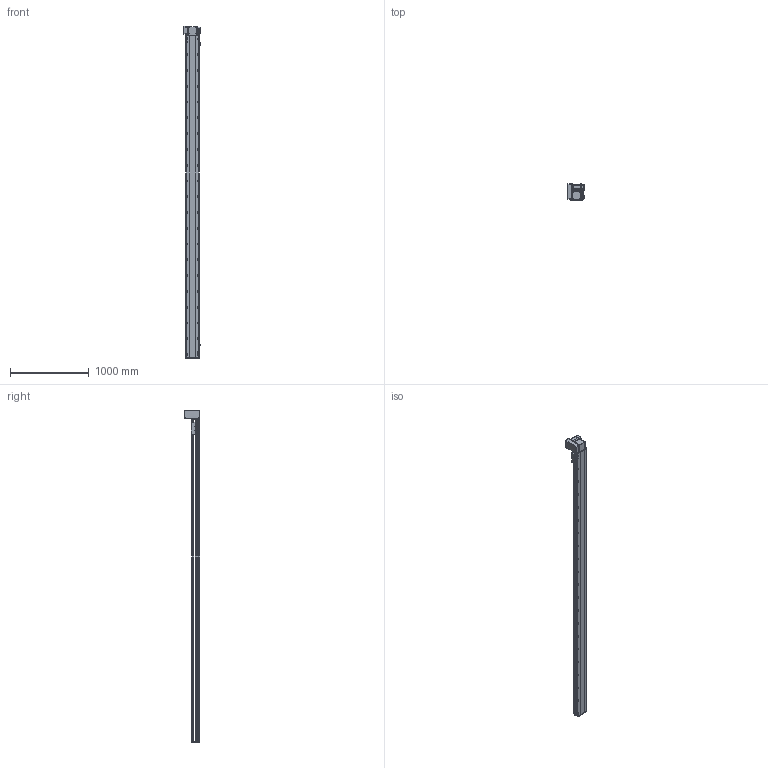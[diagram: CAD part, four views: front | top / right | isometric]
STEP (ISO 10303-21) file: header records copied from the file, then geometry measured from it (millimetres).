
FILE_DESCRIPTION (( 'STEP AP214' ), '1' );
FILE_NAME ('RTB17S-XX-3800-LW-M75-C4.STEP', '2025-12-12T01:24:42', ( '' ), ( '' ), 'SwSTEP 2.0', 'SolidWorks 2018', '' );
FILE_SCHEMA (( 'AUTOMOTIVE_DESIGN' ));
Length unit declared in the file: millimetre
Products named in the file (15): RTB17S-L-014-T20-P75--々湍釱^RTB17S-LW-々湍釱蚾饜-750W_RTB17S-XX-XX-LW-M75-C4; RTB22S-GY-008-M75--萇儂啣^RTB17S-LW-々湍釱蚾饜-750W_RTB17S-XX-XX-LW-M75-C4; RTB17S-LW-々湍釱蚾饜-750W^RTB17S-XX-XX-LW-M75-C4; 750W萇儂^RTB17S-XX-XX-LW-M75-C4; RTB22S-GY-018P^RTB17S-LW-々湍釱蚾饜-750W_RTB17S-XX-XX-LW-M75-C4; RTB17S-L-004-賑釱^RTB17S-賑釱_RTB17S-XX-XX-LW-M75-C4; RTH13-BL-012覜茼え俋离^RTB17S-賑釱_RTB17S-XX-XX-LW-M75-C4; RTB22S-GY-017P^RTB17S-LW-々湍釱蚾饜-750W_RTB17S-XX-XX-LW-M75-C4; EE672^RTB17S-XX-XX-LW-M75-C4; RTB17-R-011菁釱^RTB17S-XX-XX-LW-M75-C4; RTB17S-L-001-耜醱啣^RTB17S-XX-XX-LW-M75-C4; RTB17S-XX-3800-LW-M75-C4; RTB22S-GY-005P^RTB17S-LW-々湍釱蚾饜-750W_RTB17S-XX-XX-LW-M75-C4; RTB17S-L-007奻裔^RTB17S-XX-XX-LW-M75-C4; RTB17S-賑釱^RTB17S-XX-XX-LW-M75-C4
Assembly tree (17 placements, depth 3):
  RTB17S-XX-3800-LW-M75-C4
    RTB17-R-011菁釱^RTB17S-XX-XX-LW-M75-C4
    EE672^RTB17S-XX-XX-LW-M75-C4  x3
    RTB17S-L-001-耜醱啣^RTB17S-XX-XX-LW-M75-C4
    RTB17S-賑釱^RTB17S-XX-XX-LW-M75-C4
      RTB17S-L-004-賑釱^RTB17S-賑釱_RTB17S-XX-XX-LW-M75-C4
      RTH13-BL-012覜茼え俋离^RTB17S-賑釱_RTB17S-XX-XX-LW-M75-C4
    RTB17S-L-007奻裔^RTB17S-XX-XX-LW-M75-C4
    750W萇儂^RTB17S-XX-XX-LW-M75-C4
    RTB17S-LW-々湍釱蚾饜-750W^RTB17S-XX-XX-LW-M75-C4
      RTB17S-L-014-T20-P75--々湍釱^RTB17S-LW-々湍釱蚾饜-750W_RTB17S-XX-XX-LW-M75-C4
      RTB22S-GY-005P^RTB17S-LW-々湍釱蚾饜-750W_RTB17S-XX-XX-LW-M75-C4
      RTB22S-GY-017P^RTB17S-LW-々湍釱蚾饜-750W_RTB17S-XX-XX-LW-M75-C4  x2
      RTB22S-GY-008-M75--萇儂啣^RTB17S-LW-々湍釱蚾饜-750W_RTB17S-XX-XX-LW-M75-C4
      RTB22S-GY-018P^RTB17S-LW-々湍釱蚾饜-750W_RTB17S-XX-XX-LW-M75-C4
Bounding box: 210.4 x 201.5 x 4207.5 mm (x, y, z)
Volume: 29707005 mm3; surface area: 5509341.5 mm2
Topology: 17 solids, 17 shells, 2313 faces, 6538 edges, 4238 vertices
Faces by surface type: plane 998, cylinder 899, bspline 294, cone 110, sphere 8, torus 4
Entity records: 68854 total; most frequent: CARTESIAN_POINT 20602, ORIENTED_EDGE 9920, DIRECTION 9122, EDGE_CURVE 4960, AXIS2_PLACEMENT_3D 3258, VERTEX_POINT 3242, VECTOR 2606, LINE 2606
